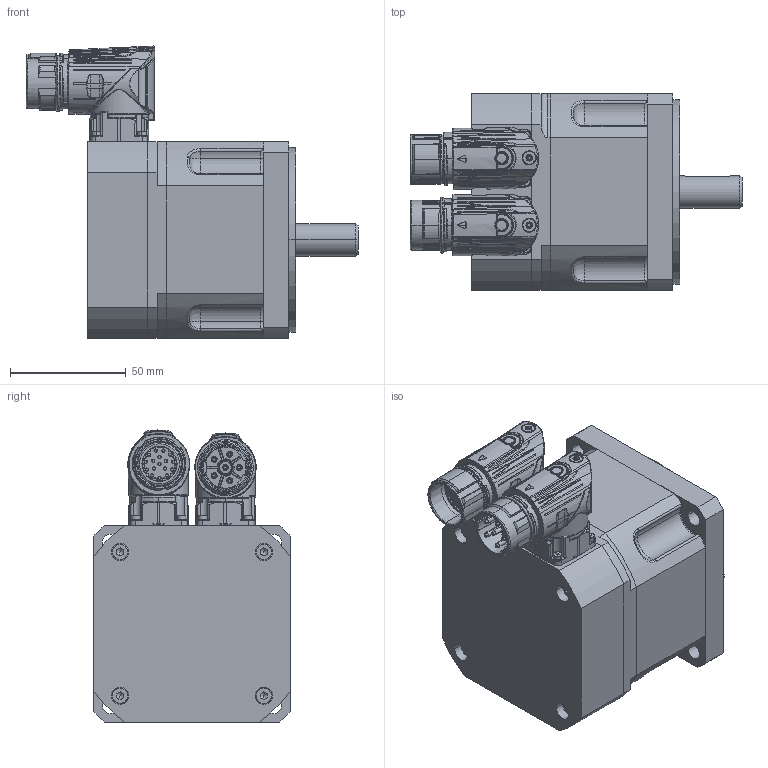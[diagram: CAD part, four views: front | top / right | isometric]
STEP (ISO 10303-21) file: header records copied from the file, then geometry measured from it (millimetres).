
FILE_DESCRIPTION(('CATIA V5 STEP Exchange'),'2;1');
FILE_NAME('C:\Documents and Settings\max\Documenti\sangallimotori\3d step\compatti\motore_DSM5_30.stp','2010-12-12T21:01:45+00:00',('none'),('none'),'CATIA Version 5 Release 10 (IN-8)','CATIA V5 STEP AP203',' none');
FILE_SCHEMA(('CONFIG_CONTROL_DESIGN'));
Assembly tree (27 placements, depth 0):
Bounding box: 143.71 x 85 x 126.43 mm (x, y, z)
Volume: 600481.9 mm3; surface area: 112009.8 mm2
Topology: 23 solids, 28 shells, 4107 faces, 13916 edges, 9831 vertices
Faces by surface type: cylinder 1492, bspline 1326, plane 594, torus 345, cone 233, sphere 109, revolution 8
Entity records: 254872 total; most frequent: CARTESIAN_POINT 165105, ORIENTED_EDGE 25412, EDGE_CURVE 12763, VERTEX_POINT 9181, DIRECTION 8727, B_SPLINE_CURVE_WITH_KNOTS 7919, AXIS2_PLACEMENT_3D 4351, EDGE_LOOP 3819
